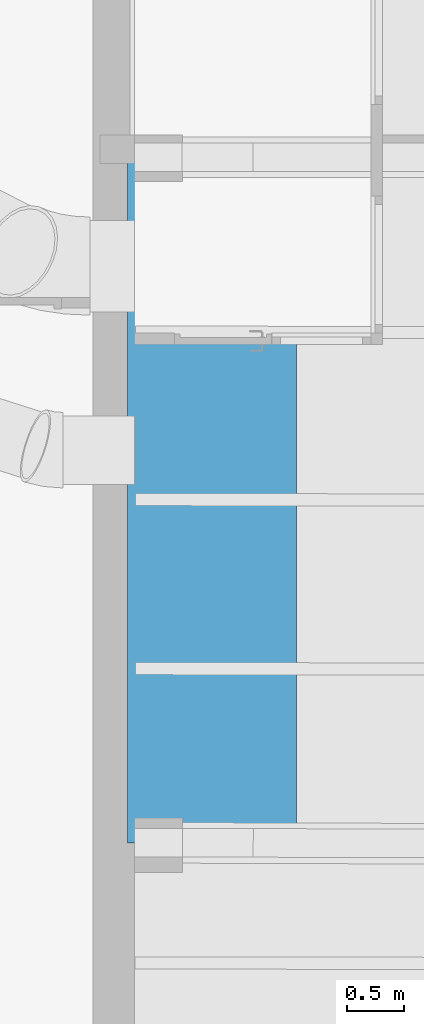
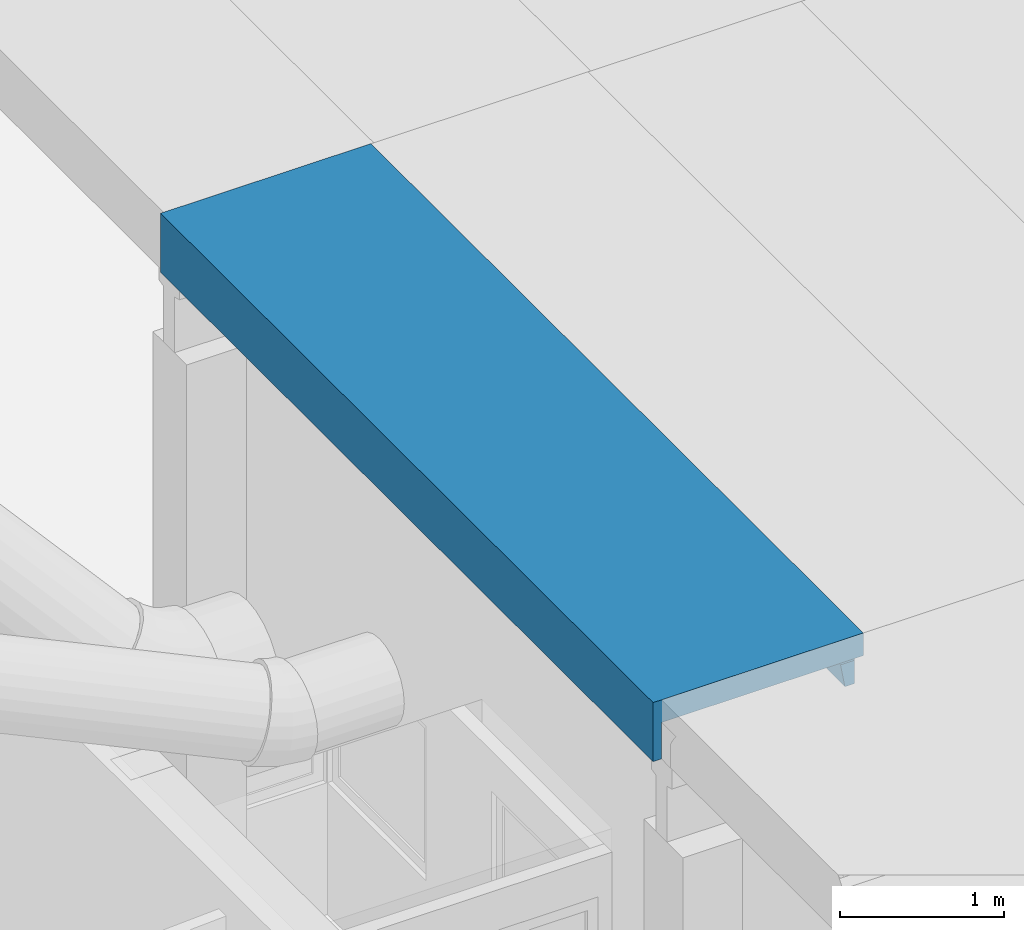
# One storey, part 29 of 301: 1 beam.
"""IFC2X3 building model written with IfcOpenShell, lengths in millimetres."""

from ifc_helpers import new_model, entity, si_unit, converted_unit, derived_unit, money_unit, direction, frame, origin_with_axes, place, context, subcontext, project, spatial, faceted_brep, material, type_object, element, save


model = new_model("IFC2X3")

# Units and contexts
model_context = context("Model", 3, precision=0.01, world=origin_with_axes(), true_north=direction((0.0, 1.0)))
body_context = subcontext(model_context, "Body", "Model", "MODEL_VIEW")
ifc_project = project(units=[si_unit("LENGTHUNIT", "METRE", prefix="MILLI"), si_unit("AREAUNIT", "SQUARE_METRE"), si_unit("VOLUMEUNIT", "CUBIC_METRE"), converted_unit("PLANEANGLEUNIT", "DEGREE", entity("IfcPlaneAngleMeasure", 0.0174532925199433), si_unit("PLANEANGLEUNIT", "RADIAN"), dimensions=[0, 0, 0, 0, 0, 0, 0]), money_unit("EUR"), converted_unit("TIMEUNIT", "Year", entity("IfcTimeMeasure", 31557600.0), si_unit("TIMEUNIT", "SECOND"), dimensions=[0, 0, 1, 0, 0, 0, 0]), si_unit("MASSUNIT", "GRAM", prefix="KILO"), si_unit("THERMODYNAMICTEMPERATUREUNIT", "DEGREE_CELSIUS"), si_unit("LUMINOUSINTENSITYUNIT", "LUMEN"), si_unit("ENERGYUNIT", "JOULE", prefix="MEGA"), derived_unit("THERMALCONDUCTANCEUNIT", [(si_unit("POWERUNIT", "WATT"), 1), (si_unit("LENGTHUNIT", "METRE"), -1), (si_unit("THERMODYNAMICTEMPERATUREUNIT", "KELVIN"), -1)]), derived_unit("SPECIFICHEATCAPACITYUNIT", [(si_unit("ENERGYUNIT", "JOULE"), 1), (si_unit("MASSUNIT", "GRAM", prefix="KILO"), -1), (si_unit("THERMODYNAMICTEMPERATUREUNIT", "KELVIN"), -1)]), derived_unit("MASSDENSITYUNIT", [(si_unit("MASSUNIT", "GRAM", prefix="KILO"), 1), (si_unit("VOLUMEUNIT", "CUBIC_METRE"), -1)])], contexts=[model_context])

# Site, building, storey
site_placement = place(None, frame((0.0, 0.0, 8650.0), z_axis=(0.0, 0.0, 1.0), x_axis=(1.0, 0.0, 0.0)))
site = spatial("IfcSite", under=ifc_project, at=site_placement, Name="43301:001:0844", CompositionType="ELEMENT")
building_placement = place(site_placement, origin_with_axes())
building = spatial("IfcBuilding", under=site, at=building_placement, Name="Kuressaare Ametikooli tuulikute mehaanikute õppekorpus", CompositionType="ELEMENT")
storey_placement = place(building_placement, origin_with_axes())
storey = spatial("IfcBuildingStorey", under=building, at=storey_placement, Name="1.korrus", CompositionType="ELEMENT", Elevation=0.0)

# Beam
ifc_material = material(Name="GENEERILINE - KONSTRUKTRIOON")
beam_type = type_object("IfcBeamType", Name="Precast Double Tee 2 1480 x 440", PredefinedType="NOTDEFINED")
beam_placement = place(storey_placement, frame((88938.75644683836, 50089.52176852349, 7100.0), z_axis=(0.0, 0.0, 1.0), x_axis=(-1.0, 0.0, 0.0)))
element("IfcBeam", 1, at=beam_placement, inside=storey, type_object=beam_type, material=ifc_material, context=body_context, shape_type="Brep", body=[
    faceted_brep([(576.463102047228, 5826.487002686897, -169.8234995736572), (576.463102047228, 4531.977806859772, -169.8234995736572), (576.463102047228, 4424.94991223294, -169.8234995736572), (576.463102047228, 3051.88550715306, -169.8234995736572), (576.463102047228, 2944.857612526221, -169.8234995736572), (576.463102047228, 1586.044806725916, -169.8234995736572), (576.463102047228, 1479.016912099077, -169.8234995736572), (576.463102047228, 177.8357036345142, -169.8234995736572), (576.463102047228, 0.0, -169.8234995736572), (-579.2780844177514, 0.0, -169.8234995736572), (-579.2780844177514, 5830.404803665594, -169.8234995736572), (596.5276855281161, 5830.084878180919, -173.6800815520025), (596.5276855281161, 4526.272579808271, -173.6800815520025), (670.8717121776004, 4424.795208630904, -169.8234995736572), (671.0470940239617, 4531.822815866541, -169.8234995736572), (596.5276855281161, 4430.589411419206, -173.6800815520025), (596.5276855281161, 3046.180280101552, -173.6800815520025), (668.6217326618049, 3051.734490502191, -169.8234995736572), (668.4463508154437, 2944.706883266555, -169.8234995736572), (596.5276855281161, 1580.339579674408, -173.6800815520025), (596.5276855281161, 2950.497111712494, -173.6800815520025), (668.6217326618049, 1585.893790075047, -169.8234995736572), (668.4463508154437, 1478.866182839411, -169.8234995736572), (596.5276855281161, 1484.65641128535, -173.6800815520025), (596.5276855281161, 174.1642310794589, -173.6800815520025), (680.043145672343, 177.8067850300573, -169.8234995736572), (679.9935036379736, 0.0, -169.8234995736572), (679.9935036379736, 0.0, -440.0001340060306), (739.9999999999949, 0.0, -440.0001340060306), (739.9999999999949, 0.0, 0.0), (-739.9999999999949, 0.0, 0.0), (-739.9999999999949, 0.0, -169.8234995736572), (-582.3753094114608, 0.0, -169.8234995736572), (-581.9040335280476, 0.0, -169.7351493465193), (-581.9040335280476, 5830.329723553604, -169.7351493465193), (-598.9726949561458, 5833.429232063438, -172.9350162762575), (-611.5778207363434, 5840.694124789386, -180.5328579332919), (-739.9999999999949, 5841.1294580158, -180.5328579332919), (-739.9999999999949, 5830.166847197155, -168.9999999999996), (679.3972632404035, 5825.355288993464, -168.9999999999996), (679.434424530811, 5836.317773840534, -180.5328579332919), (607.5517480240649, 5836.561446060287, -180.5328579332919), (613.4409409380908, 4519.143735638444, -184.1936973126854), (599.2910346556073, 4523.741542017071, -175.3978342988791), (613.8801744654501, 5839.577782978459, -184.4667336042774), (613.8801744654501, 4519.078355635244, -184.4667336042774), (671.0336589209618, 4523.62398025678, -175.3978342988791), (599.2909140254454, 4433.111296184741, -175.3977593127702), (670.8851471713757, 4432.993977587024, -175.3977593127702), (671.0261626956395, 4519.049373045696, -184.1936973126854), (670.9921770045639, 4498.309443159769, -271.7709778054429), (670.9266306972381, 4458.309496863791, -271.7709778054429), (670.8926434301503, 4437.568605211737, -184.1935020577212), (613.440626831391, 4437.662749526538, -184.1935020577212), (613.8801744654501, 4437.726738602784, -184.4667336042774), (613.8801744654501, 3038.986055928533, -184.4667336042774), (613.4409409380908, 3039.051435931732, -184.1936973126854), (599.2910346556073, 3043.649242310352, -175.3978342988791), (668.608297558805, 3043.535654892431, -175.3978342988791), (668.6008013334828, 3038.961047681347, -184.1936973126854), (668.5668156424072, 3018.22111779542, -271.7709778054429), (668.5012693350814, 2978.221171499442, -271.7709778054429), (668.4672820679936, 2957.480279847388, -184.1935020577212), (668.4597858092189, 2952.905652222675, -175.3977593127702), (599.2909140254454, 2953.018996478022, -175.3977593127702), (599.2910346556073, 1577.808541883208, -175.3978342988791), (668.608297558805, 1577.694954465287, -175.3978342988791), (613.440626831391, 2957.570449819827, -184.1935020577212), (613.8801744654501, 2957.634438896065, -184.4667336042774), (613.8801744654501, 1573.145355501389, -184.4667336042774), (613.4409409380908, 1573.210735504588, -184.1936973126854), (668.4597858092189, 1487.064951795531, -175.3977593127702), (668.6008013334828, 1573.120347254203, -184.1936973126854), (668.5668156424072, 1552.380417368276, -271.7709778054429), (668.5012693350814, 1512.380471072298, -271.7709778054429), (668.4672820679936, 1491.639579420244, -184.1935020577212), (599.2909140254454, 1487.178296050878, -175.3977593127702), (613.440626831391, 1491.729749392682, -184.1935020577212), (613.8801744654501, 1491.793738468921, -184.4667336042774), (613.8801744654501, 164.4608501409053, -184.4667336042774), (608.8765119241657, 166.8641058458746, -181.3563575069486), (680.0400850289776, 166.8442376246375, -181.3563575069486), (680.0312423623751, 135.1717620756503, -222.3718083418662), (680.0240973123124, 109.5797734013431, -267.4324680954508), (680.0240971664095, 109.5792508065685, -440.0001340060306), (665.9999970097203, 109.5831662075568, -440.0001340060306), (665.9999970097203, 5893.62863523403, -440.0001340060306), (679.6285437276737, 5893.582436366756, -440.0001340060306), (680.0040963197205, 6004.369482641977, -440.0001340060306), (739.9999999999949, 6004.369482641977, -440.0001340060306), (739.9999999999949, 6004.369482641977, 0.0), (-739.9999999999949, 6004.369482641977, 0.0), (-739.9999999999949, 6004.369482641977, -168.9999999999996), (-739.9999999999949, 5872.802116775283, -221.5483087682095), (-739.9999999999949, 5898.394253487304, -266.6089685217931), (-739.9999999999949, 5898.394778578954, -440.0001340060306), (-739.9999999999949, 109.9757085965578, -440.0001340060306), (-739.9999999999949, 109.976231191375, -267.4324680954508), (-739.9999999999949, 135.5682218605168, -222.3718083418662), (-739.9999999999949, 167.2406998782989, -181.3563575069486), (-739.9999999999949, 178.2032481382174, -169.8234995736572), (-739.9999999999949, 1514.688525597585, -271.7709778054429), (-739.9999999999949, 1554.688579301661, -271.7709778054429), (-739.9999999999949, 1575.428564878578, -184.1936973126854), (-739.9999999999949, 1580.003184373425, -175.3978342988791), (-739.9999999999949, 1588.202041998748, -169.8234995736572), (-739.9999999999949, 1481.174147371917, -169.8234995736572), (-739.9999999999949, 1489.372938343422, -175.3977593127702), (-739.9999999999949, 1493.947578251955, -184.1935020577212), (-739.9999999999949, 3020.529279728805, -271.7709778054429), (-739.9999999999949, 3041.269265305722, -184.1936973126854), (-739.9999999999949, 3045.843884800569, -175.3978342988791), (-739.9999999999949, 3054.042742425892, -169.8234995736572), (-739.9999999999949, 2947.014847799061, -169.8234995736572), (-739.9999999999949, 2955.213638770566, -175.3977593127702), (-739.9999999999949, 2959.788278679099, -184.1935020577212), (-739.9999999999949, 2980.529226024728, -271.7709778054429), (-739.9999999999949, 4521.361565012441, -184.1936973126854), (-739.9999999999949, 4525.936184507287, -175.3978342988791), (-739.9999999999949, 4534.135042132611, -169.8234995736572), (-739.9999999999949, 4427.10714750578, -169.8234995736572), (-739.9999999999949, 4435.305938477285, -175.3977593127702), (-739.9999999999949, 4439.880578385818, -184.1935020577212), (-739.9999999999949, 4460.621525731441, -271.7709778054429), (-739.9999999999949, 4500.621579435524, -271.7709778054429), (-582.375309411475, 178.1592407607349, -169.8234995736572), (-582.3753094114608, 4426.848854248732, -169.8234995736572), (-582.3753094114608, 4533.876748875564, -169.8234995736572), (-598.9726949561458, 4529.327457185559, -172.9350162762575), (-598.9726949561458, 175.2062250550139, -172.9350162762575), (-598.9726949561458, 1485.519565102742, -172.9350162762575), (-582.3753094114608, 1480.915854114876, -169.8234995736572), (-582.3753094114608, 1587.943748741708, -169.8234995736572), (-598.9726949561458, 1583.394457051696, -172.9350162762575), (-598.9726949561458, 2951.360265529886, -172.9350162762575), (-582.3753094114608, 2946.75655454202, -169.8234995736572), (-582.3753094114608, 3053.784449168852, -169.8234995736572), (-598.9726949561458, 3049.23515747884, -172.9350162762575), (-598.9726949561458, 4431.452565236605, -172.9350162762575), (-603.058609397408, 4525.711784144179, -175.3978342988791), (-613.8457985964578, 4522.347816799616, -181.8998999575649), (-613.8457985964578, 5841.757460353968, -181.8998999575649), (-624.6465213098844, 5852.295110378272, -195.4985300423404), (-630.0119299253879, 5865.067457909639, -212.014908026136), (-631.7230940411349, 5872.435073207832, -221.5483087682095), (680.0040963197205, 6004.369482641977, -168.9999999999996), (679.5417891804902, 5867.990068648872, -221.5483087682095), (679.6285419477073, 5893.581911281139, -266.6089685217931), (632.0878286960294, 5868.150930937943, -221.5483087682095), (631.9059644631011, 5867.246889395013, -220.376794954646), (626.2185466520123, 5852.112015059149, -200.7524729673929), (626.2185466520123, 4515.201360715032, -200.7524729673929), (631.9059644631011, 4510.54462382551, -220.376794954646), (639.8843284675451, 4498.360418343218, -271.7709778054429), (639.8843284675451, 4458.360364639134, -271.7709778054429), (626.2185466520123, 4441.563466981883, -200.7524729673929), (631.9059644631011, 4446.201769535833, -220.376794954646), (626.2185466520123, 3035.109061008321, -200.7524729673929), (631.9059644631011, 3030.452324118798, -220.376794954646), (639.8843284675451, 3018.268118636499, -271.7709778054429), (639.8843284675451, 2978.268064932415, -271.7709778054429), (631.9059644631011, 2966.109469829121, -220.376794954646), (626.2185466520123, 2961.471167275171, -200.7524729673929), (626.2185466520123, 1569.268360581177, -200.7524729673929), (639.8843284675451, 1552.427418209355, -271.7709778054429), (631.9059644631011, 1564.611623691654, -220.376794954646), (639.8843284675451, 1512.427364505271, -271.7709778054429), (631.9059644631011, 1500.268769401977, -220.376794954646), (626.2185466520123, 1495.630466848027, -200.7524729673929), (626.2185466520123, 151.8814197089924, -200.7524729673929), (631.9059644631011, 136.725764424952, -220.376794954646), (632.2156676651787, 135.1851117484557, -222.3718083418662), (639.2108240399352, 109.5911680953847, -267.4324680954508), (639.082985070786, 5893.719355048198, -266.6089685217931), (-639.8110981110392, 5898.054627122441, -266.6089685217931), (-670.9333333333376, 5898.160652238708, -440.0001340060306), (-670.9333333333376, 109.9564258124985, -440.0001340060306), (-639.9589092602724, 109.9483006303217, -267.4324680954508), (-631.8709051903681, 135.5380332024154, -222.3718083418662), (-630.0119299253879, 143.5352002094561, -212.014908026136), (-624.6465213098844, 156.2877890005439, -195.4985300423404), (-613.8457985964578, 166.7857506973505, -181.8998999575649), (-612.9440397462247, 167.2052270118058, -181.3563575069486), (-640.7376347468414, 1514.525868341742, -271.7709778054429), (-640.7376347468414, 1554.525922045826, -271.7709778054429), (-630.0119299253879, 1568.659733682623, -212.014908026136), (-624.6465213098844, 1572.562337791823, -195.4985300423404), (-615.6676489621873, 1575.224826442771, -184.1936973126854), (-613.8457985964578, 1576.414816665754, -181.8998999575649), (-603.058609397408, 1579.778784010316, -175.3978342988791), (-603.0584849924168, 1489.148537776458, -175.3977593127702), (-613.8457985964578, 1492.54795872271, -181.8998999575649), (-615.6674938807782, 1493.743839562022, -184.1935020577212), (-624.6465213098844, 1496.435919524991, -195.4985300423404), (-630.0119299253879, 1500.356280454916, -212.014908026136), (-624.6465213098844, 3038.403038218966, -195.4985300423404), (-615.6676489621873, 3041.065526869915, -184.1936973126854), (-640.7376347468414, 3020.36662247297, -271.7709778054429), (-630.0119299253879, 3034.500434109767, -212.014908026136), (-613.8457985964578, 3042.255517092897, -181.8998999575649), (-603.058609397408, 3045.61948443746, -175.3978342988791), (-603.058484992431, 2954.989238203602, -175.3977593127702), (-613.8457985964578, 2958.388659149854, -181.8998999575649), (-615.6674938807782, 2959.584539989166, -184.1935020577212), (-630.0119299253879, 2966.19698088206, -212.014908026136), (-640.7376347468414, 2980.366568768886, -271.7709778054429), (-624.6465213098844, 2962.276619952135, -195.4985300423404), (-615.6676489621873, 4521.157826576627, -184.1936973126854), (-603.058484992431, 4435.081537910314, -175.3977593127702), (-615.6674938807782, 4439.676839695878, -184.1935020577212), (-613.8457985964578, 4438.480958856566, -181.8998999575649), (-640.7376347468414, 4460.458868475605, -271.7709778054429), (-624.6465213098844, 4442.368919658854, -195.4985300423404), (-630.0119299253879, 4446.289280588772, -212.014908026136), (-640.7376347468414, 4500.458922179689, -271.7709778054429), (-630.0119299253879, 4514.592733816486, -212.014908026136), (-624.6465213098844, 4518.495337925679, -195.4985300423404)], [[[0, 1, 2, 3, 4, 5, 6, 7, 8, 9, 10]], [[11, 12, 1, 0]], [[13, 2, 1, 14]], [[3, 2, 15, 16]], [[17, 18, 4, 3]], [[19, 5, 4, 20]], [[5, 21, 22, 6]], [[23, 24, 7, 6]], [[25, 26, 8, 7]], [[26, 27, 28, 29, 30, 31, 32, 33, 9, 8]], [[34, 10, 9, 33]], [[10, 34, 35, 36, 37, 38, 39, 40, 41, 11, 0]], [[42, 43, 12, 11, 41, 44, 45]], [[14, 1, 12, 43, 46]], [[47, 15, 2, 13, 48]], [[14, 46, 49, 50, 51, 52, 48, 13]], [[47, 53, 54, 55, 56, 57, 16, 15]], [[58, 17, 3, 16, 57]], [[18, 17, 58, 59, 60, 61, 62, 63]], [[63, 64, 20, 4, 18]], [[65, 66, 21, 5, 19]], [[20, 64, 67, 68, 69, 70, 65, 19]], [[71, 22, 21, 66, 72, 73, 74, 75]], [[22, 71, 76, 23, 6]], [[24, 23, 76, 77, 78, 79, 80]], [[7, 24, 80, 81, 25]], [[25, 81, 82, 83, 84, 27, 26]], [[27, 84, 85, 86, 87, 88, 89, 28]], [[29, 28, 89, 90]], [[30, 29, 90, 91]], [[92, 38, 37, 93, 94, 95, 96, 97, 98, 99, 100, 31, 30, 91], [101, 102, 103, 104, 105, 106, 107, 108], [109, 110, 111, 112, 113, 114, 115, 116], [117, 118, 119, 120, 121, 122, 123, 124]], [[125, 32, 31, 100]], [[126, 127, 128, 35, 34, 33, 32, 125, 129, 130, 131, 132, 133, 134, 135, 136, 137, 138]], [[128, 139, 140, 141, 36, 35]], [[141, 142, 143, 144, 93, 37, 36]], [[38, 92, 145, 39]], [[146, 40, 39, 145, 88, 87, 147]], [[146, 148, 149, 150, 44, 41, 40]], [[46, 43, 42, 49]], [[150, 151, 45, 44]], [[49, 42, 45, 151, 152, 153, 50]], [[52, 53, 47, 48]], [[50, 153, 154, 51]], [[155, 54, 53, 52, 51, 154, 156]], [[55, 54, 155, 157]], [[60, 59, 56, 55, 157, 158, 159]], [[59, 58, 57, 56]], [[61, 60, 159, 160]], [[161, 162, 68, 67, 62, 61, 160]], [[63, 62, 67, 64]], [[70, 72, 66, 65]], [[163, 69, 68, 162]], [[164, 73, 72, 70, 69, 163, 165]], [[166, 74, 73, 164]], [[166, 167, 168, 78, 77, 75, 74]], [[76, 71, 75, 77]], [[168, 169, 79, 78]], [[169, 170, 171, 82, 81, 80, 79]], [[82, 171, 172, 83]], [[83, 172, 85, 84]], [[154, 153, 152, 149, 148, 173, 86, 85, 172, 171, 170, 167, 166, 164, 165, 161, 160, 159, 158, 156]], [[86, 173, 147, 87]], [[91, 90, 89, 88, 145, 92]], [[94, 93, 144, 174]], [[95, 94, 174, 175]], [[95, 175, 176, 96]], [[177, 97, 96, 176]], [[178, 98, 97, 177]], [[178, 179, 180, 181, 182, 99, 98]], [[100, 99, 182, 129, 125]], [[101, 183, 184, 102]], [[185, 186, 187, 103, 102, 184]], [[187, 188, 189, 104, 103]], [[189, 133, 132, 105, 104]], [[105, 132, 131, 106]], [[131, 130, 190, 107, 106]], [[190, 191, 192, 108, 107]], [[193, 194, 183, 101, 108, 192]], [[195, 196, 110, 109, 197, 198]], [[199, 200, 111, 110, 196]], [[137, 136, 112, 111, 200]], [[136, 135, 113, 112]], [[134, 201, 114, 113, 135]], [[202, 203, 115, 114, 201]], [[204, 205, 116, 115, 203, 206]], [[205, 197, 109, 116]], [[139, 118, 117, 207, 140]], [[127, 119, 118, 139, 128]], [[126, 120, 119, 127]], [[208, 121, 120, 126, 138]], [[209, 122, 121, 208, 210]], [[211, 123, 122, 209, 212, 213]], [[214, 124, 123, 211]], [[207, 117, 124, 214, 215, 216]], [[182, 181, 191, 190, 130, 129]], [[188, 202, 201, 134, 133, 189]], [[210, 208, 138, 137, 200, 199]], [[140, 207, 216, 142, 141]], [[142, 216, 215, 143]], [[143, 215, 214, 211, 213, 198, 197, 205, 204, 185, 184, 183, 194, 179, 178, 177, 176, 175, 174, 144]], [[173, 148, 146, 147]], [[149, 152, 151, 150]], [[157, 155, 156, 158]], [[165, 163, 162, 161]], [[167, 170, 169, 168]], [[193, 180, 179, 194]], [[181, 180, 193, 192, 191]], [[186, 185, 204, 206]], [[186, 206, 203, 202, 188, 187]], [[212, 209, 210, 199, 196, 195]], [[198, 213, 212, 195]]]),
])

save(model, "model.ifc")
